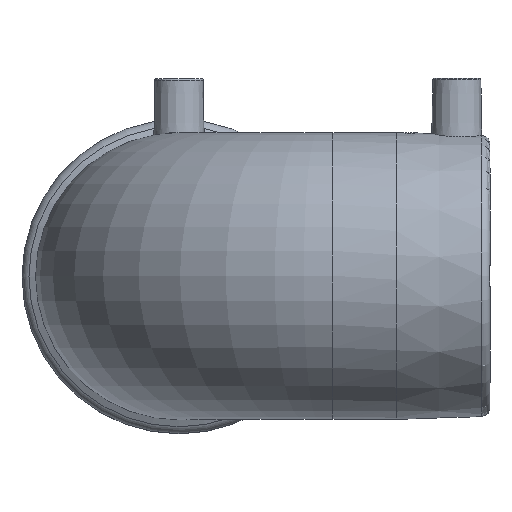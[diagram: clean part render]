
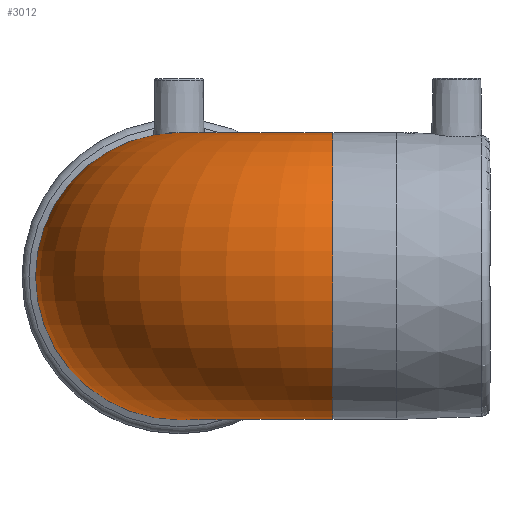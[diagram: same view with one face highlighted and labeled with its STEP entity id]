
A CAD part, top view. The second image highlights one B-rep face of the part: STEP entity #3012.
In plain terms, the highlighted toroidal (fillet/blend) face has major radius 51 mm and minor radius 47.5 mm.
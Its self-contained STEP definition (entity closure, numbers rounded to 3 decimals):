
#546=TOROIDAL_SURFACE('',#3835,51.,47.5);
#568=CIRCLE('',#3825,47.5);
#570=CIRCLE('',#3829,47.5);
#796=ORIENTED_EDGE('',*,*,#1637,.T.);
#797=ORIENTED_EDGE('',*,*,#1635,.F.);
#1635=EDGE_CURVE('',#2061,#2061,#568,.F.);
#1637=EDGE_CURVE('',#2063,#2063,#570,.F.);
#2061=VERTEX_POINT('',#5280);
#2063=VERTEX_POINT('',#5286);
#2427=EDGE_LOOP('',(#796));
#2428=EDGE_LOOP('',(#797));
#2716=FACE_BOUND('',#2427,.T.);
#2717=FACE_BOUND('',#2428,.T.);
#3012=ADVANCED_FACE('',(#2716,#2717),#546,.T.);
#3825=AXIS2_PLACEMENT_3D('',#5279,#4244,#4245);
#3829=AXIS2_PLACEMENT_3D('',#5285,#4252,#4253);
#3835=AXIS2_PLACEMENT_3D('',#5320,#4264,#4265);
#4244=DIRECTION('',(-1.,0.,0.));
#4245=DIRECTION('',(0.,0.,-1.));
#4252=DIRECTION('',(0.,0.,-1.));
#4253=DIRECTION('',(1.,0.,0.));
#4264=DIRECTION('',(0.,1.,0.));
#4265=DIRECTION('',(0.,0.,1.));
#5279=CARTESIAN_POINT('',(51.,0.,103.));
#5280=CARTESIAN_POINT('',(51.,0.,55.5));
#5285=CARTESIAN_POINT('',(0.,0.,52.));
#5286=CARTESIAN_POINT('',(47.5,0.,52.));
#5320=CARTESIAN_POINT('',(51.,0.,52.));
